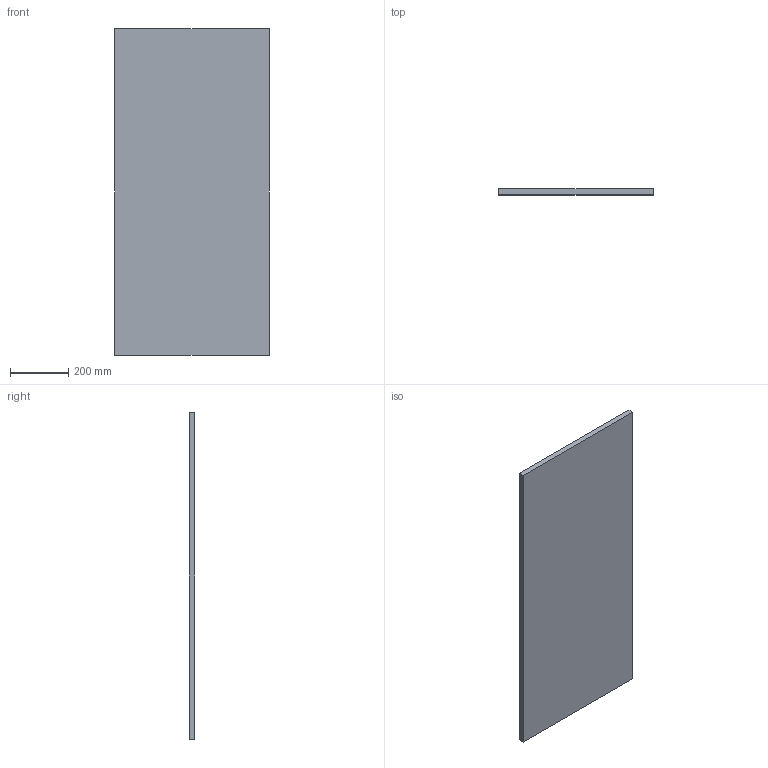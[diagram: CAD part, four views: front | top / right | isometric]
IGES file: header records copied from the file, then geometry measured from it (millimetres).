
Start section:  PTC IGES file: C:\Documents and Settings\Brad\Desktop\IGES\panel_top.ig s
Global section: file name: C:\Documents and Settings\Brad\Desktop\IGES\panel_top.igs; native system: Brad by Parametric Technology Corporation; preprocessor: 2003250; author: Unknown; organization: PTC; date: 040521.142625; units: inch
Bounding box: 533.4 x 19.05 x 1123.95 mm (x, y, z)
Volume: 11420759.4 mm3; surface area: 1262174.9 mm2
Topology: 1 solids, 1 shells, 6 faces, 12 edges, 8 vertices
Faces by surface type: bspline 6
